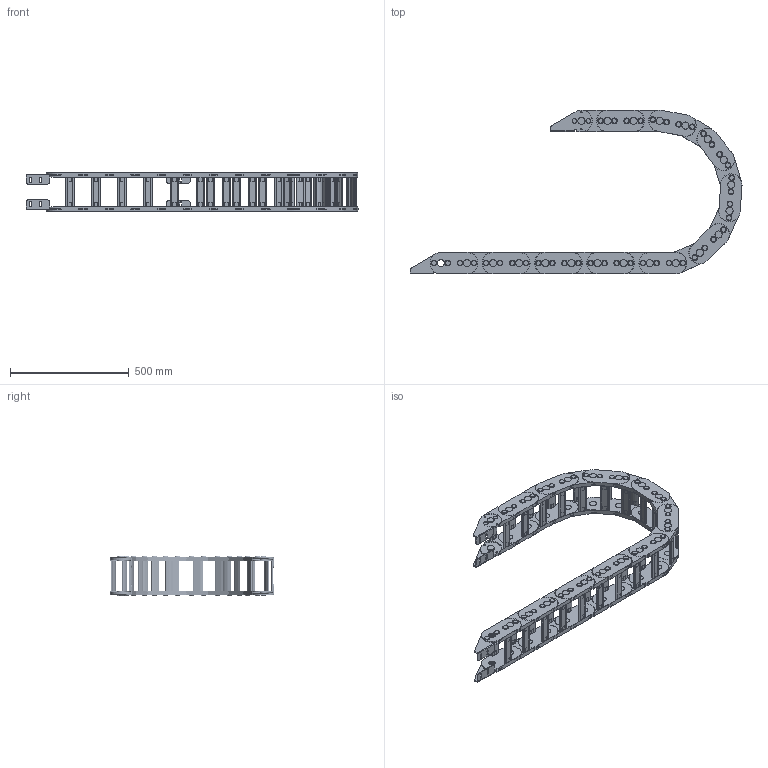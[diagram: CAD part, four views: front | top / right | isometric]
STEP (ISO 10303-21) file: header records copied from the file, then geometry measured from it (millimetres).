
FILE_DESCRIPTION((''),'2;1');
FILE_NAME('GD-65-R300_ASM','2022-07-07T09:05:05',('admin'),(''),'CREO PARAMETRIC BY PTC INC, 2021164','CREO PARAMETRIC BY PTC INC, 2021164','');
FILE_SCHEMA(('CONFIG_CONTROL_DESIGN','GEOMETRIC_VALIDATION_PROPERTIES_MIM'));
Length unit declared in the file: millimetre
Products named in the file (5): 65-R150; 65-R150-1; TLT-1; TLT-2; GD-65-R300_ASM
Assembly tree (22 placements, depth 2):
  GD-65-R300_ASM
    65-R150  x10
    65-R150-1  x10
    TLT-1
    TLT-2
Bounding box: 1398.5 x 689.28 x 165.4 mm (x, y, z)
Volume: 9110056.7 mm3; surface area: 2748059 mm2
Topology: 84 solids, 84 shells, 2572 faces, 6726 edges, 4570 vertices
Faces by surface type: cylinder 1228, plane 1144, cone 200
Entity records: 16215 total; most frequent: DIRECTION 2490, CARTESIAN_POINT 2392, ORIENTED_EDGE 2220, EDGE_CURVE 1110, AXIS2_PLACEMENT_3D 953, VERTEX_POINT 754, PRESENTATION_STYLE_ASSIGNMENT 634, STYLED_ITEM 633
